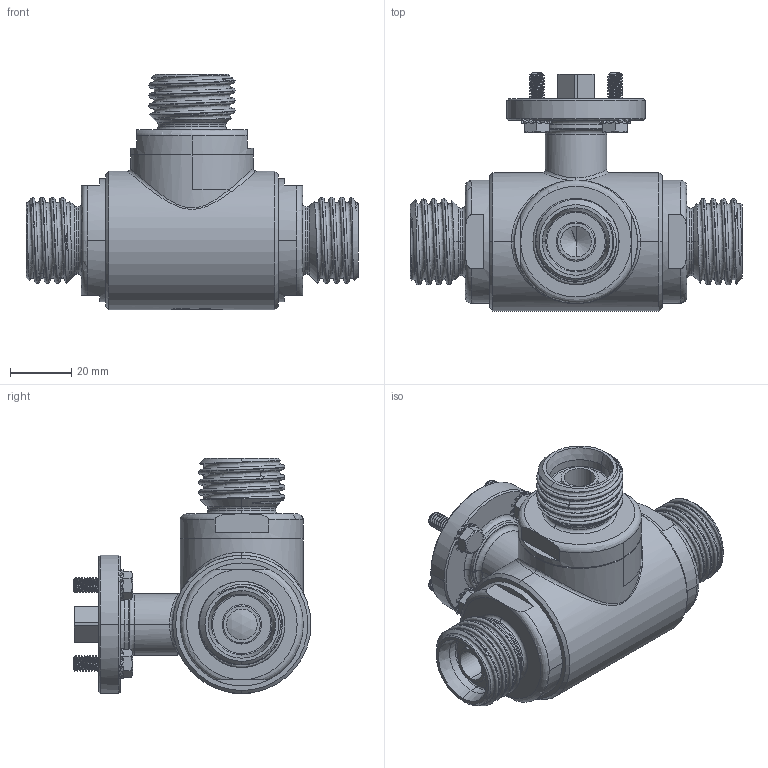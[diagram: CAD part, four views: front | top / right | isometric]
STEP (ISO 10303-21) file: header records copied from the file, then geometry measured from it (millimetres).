
FILE_DESCRIPTION((''),'2;1');
FILE_NAME('PARTE_VUOTA','2022-01-21T07:59:18',('alfio.taboni'),('CDM Tecnoconsulting'),'CREO PARAMETRIC BY PTC INC, 2020053','CREO PARAMETRIC BY PTC INC, 2020053','');
FILE_SCHEMA(('CONFIG_CONTROL_DESIGN','SHAPE_APPEARANCE_LAYERS_GROUPS'));
Products named in the file (1): PARTE_VUOTA
Bounding box: 108 x 77.4 x 76.5 mm (x, y, z)
Volume: 146059 mm3; surface area: 51684.5 mm2
Topology: 1 solids, 18 shells, 1440 faces, 4007 edges, 2545 vertices
Faces by surface type: plane 489, cylinder 441, cone 237, torus 116, bspline 97, extrusion 56, sphere 4
Entity records: 85453 total; most frequent: CARTESIAN_POINT 38061, ORIENTED_EDGE 7990, DIRECTION 6545, PRESENTATION_STYLE_ASSIGNMENT 4013, STYLED_ITEM 3999, CURVE_STYLE 3997, EDGE_CURVE 3997, VERTEX_POINT 2546
